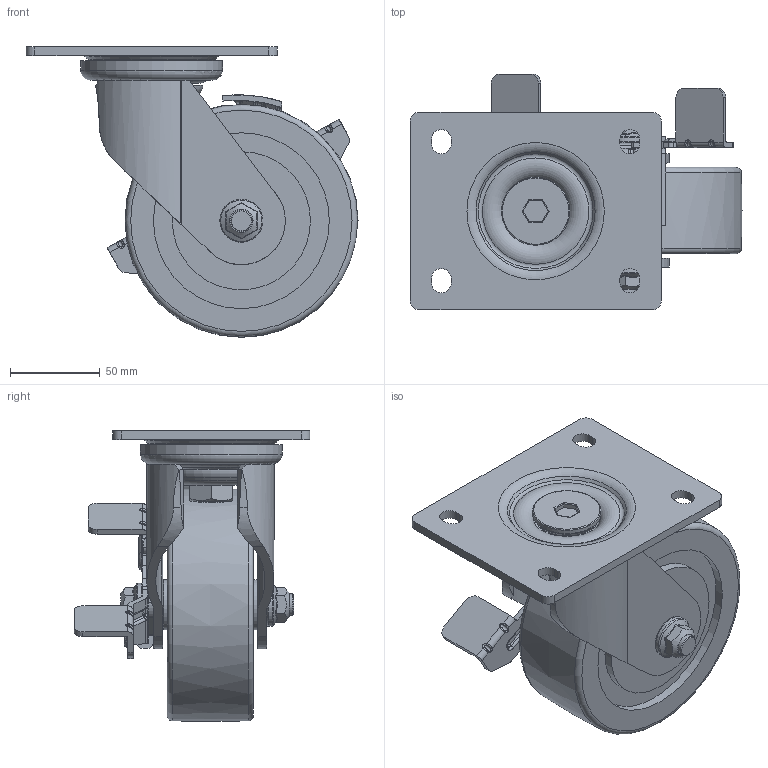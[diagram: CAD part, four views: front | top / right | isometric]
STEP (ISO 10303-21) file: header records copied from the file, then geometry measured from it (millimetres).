
FILE_DESCRIPTION(/* description */ (''),/* implementation_level */ '2;1');
FILE_NAME(/* name */ 'PMW-130-BSF.step',/* time_stamp */ '2026-01-27T08:47:17+09:00',/* author */ (''),/* organization */ (''),/* preprocessor_version */ 'ST-DEVELOPER v20.1',/* originating_system */ 'Autodesk Translation Framework v14.24.0.0',/* authorisation */ '');
FILE_SCHEMA (('AUTOMOTIVE_DESIGN { 1 0 10303 214 3 1 1 }'));
Length unit declared in the file: millimetre
Products named in the file (1): PMW-130B-SF
Bounding box: 185 x 131.5 x 161.96 mm (x, y, z)
Volume: 813059.8 mm3; surface area: 178361.4 mm2
Topology: 1 solids, 11 shells, 746 faces, 1873 edges, 1146 vertices
Faces by surface type: cylinder 252, plane 219, bspline 127, torus 94, cone 34, sphere 20
Full cylindrical faces by diameter (mm): 12 x1, 15 x2, 15.2 x2, 16 x2, 18 x3, 20 x4, 20.2 x2, 24 x2, 26 x1, 28 x2, 29 x8, 38 x9, 42 x1, 47 x4, 69 x1, 77 x2, 79 x1, 98 x2
Entity records: 32815 total; most frequent: CARTESIAN_POINT 15190, DIRECTION 3742, ORIENTED_EDGE 3682, EDGE_CURVE 1841, AXIS2_PLACEMENT_3D 1528, VERTEX_POINT 1146, EDGE_LOOP 819, CIRCLE 768
